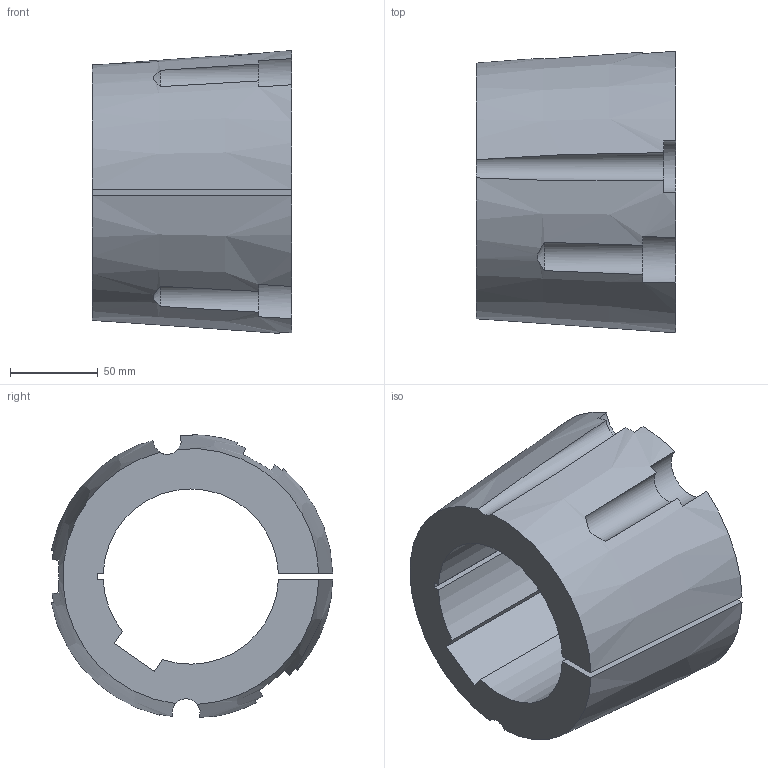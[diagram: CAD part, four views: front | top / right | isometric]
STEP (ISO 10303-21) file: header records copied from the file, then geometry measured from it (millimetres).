
FILE_DESCRIPTION( ( 'STEP AP203' ), '1' );
FILE_NAME( 'D:/export/antriebselemente/spannbuchsen_und_spannsaetze/taper-spannbuchsen_1008_bis_5050/taper-spannbuchsen_62251591Isometric_258.stp', '2018-12-11T11:11:36', ( '' ), ( '' ), ' ', 'PARTsolutions', ' ' );
FILE_SCHEMA( ( 'CONFIG_CONTROL_DESIGN' ) );
Length unit declared in the file: millimetre
Products named in the file (1): _taper-spannbuchsen_62251591
Bounding box: 114 x 160.6 x 161.35 mm (x, y, z)
Volume: 1126302.9 mm3; surface area: 123694.9 mm2
Topology: 1 solids, 1 shells, 34 faces, 96 edges, 64 vertices
Faces by surface type: plane 15, cylinder 13, cone 6
Entity records: 1314 total; most frequent: CARTESIAN_POINT 390, ORIENTED_EDGE 192, DIRECTION 186, EDGE_CURVE 96, AXIS2_PLACEMENT_3D 80, VERTEX_POINT 64, CIRCLE 45, ADVANCED_FACE 34
